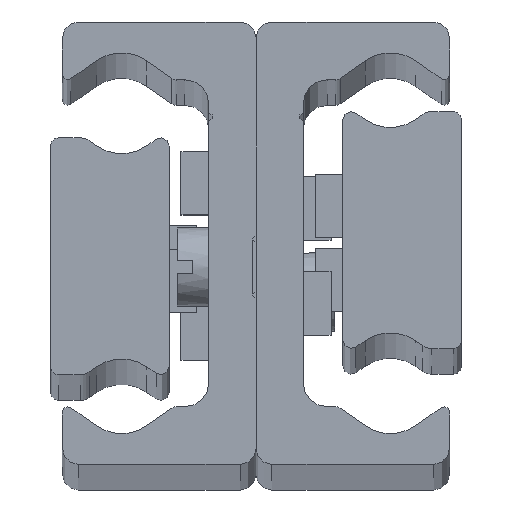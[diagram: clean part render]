
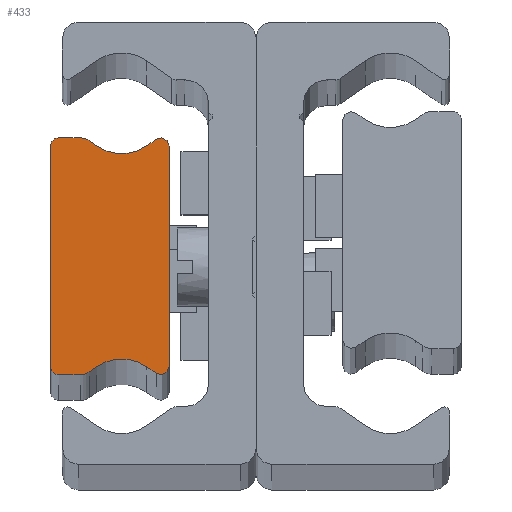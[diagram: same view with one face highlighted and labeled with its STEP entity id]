
A CAD part, top view. The second image highlights one B-rep face of the part: STEP entity #433.
In plain terms, the highlighted planar face has unit normal (0, 0, 1) as drawn and (0, 0, -1) by its records, which use the part's own axes.
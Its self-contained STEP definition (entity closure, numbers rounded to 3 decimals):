
#433 = ADVANCED_FACE( '', ( #983 ), #984, .F. );
#983 = FACE_OUTER_BOUND( '', #1653, .T. );
#984 = PLANE( '', #1654 );
#1653 = EDGE_LOOP( '', ( #2663, #2664, #2665, #2666, #2667, #2668, #2669, #2670, #2671, #2672, #2673, #2674, #2675, #2676, #2677, #2678 ) );
#1654 = AXIS2_PLACEMENT_3D( '', #2679, #2680, #2681 );
#2663 = ORIENTED_EDGE( '', *, *, #3601, .F. );
#2664 = ORIENTED_EDGE( '', *, *, #3746, .F. );
#2665 = ORIENTED_EDGE( '', *, *, #3747, .F. );
#2666 = ORIENTED_EDGE( '', *, *, #3748, .F. );
#2667 = ORIENTED_EDGE( '', *, *, #3749, .F. );
#2668 = ORIENTED_EDGE( '', *, *, #3750, .T. );
#2669 = ORIENTED_EDGE( '', *, *, #3751, .F. );
#2670 = ORIENTED_EDGE( '', *, *, #3752, .F. );
#2671 = ORIENTED_EDGE( '', *, *, #3568, .F. );
#2672 = ORIENTED_EDGE( '', *, *, #3753, .F. );
#2673 = ORIENTED_EDGE( '', *, *, #3754, .F. );
#2674 = ORIENTED_EDGE( '', *, *, #3755, .T. );
#2675 = ORIENTED_EDGE( '', *, *, #3674, .F. );
#2676 = ORIENTED_EDGE( '', *, *, #3756, .F. );
#2677 = ORIENTED_EDGE( '', *, *, #3757, .F. );
#2678 = ORIENTED_EDGE( '', *, *, #3421, .F. );
#2679 = CARTESIAN_POINT( '', ( 0.5, -7., -930. ) );
#2680 = DIRECTION( '', ( 0., 0., 1. ) );
#2681 = DIRECTION( '', ( 1., 0., 0. ) );
#3421 = EDGE_CURVE( '', #3963, #3965, #3966, .T. );
#3568 = EDGE_CURVE( '', #4215, #4217, #4218, .T. );
#3601 = EDGE_CURVE( '', #4276, #3963, #4278, .T. );
#3674 = EDGE_CURVE( '', #4392, #4394, #4395, .T. );
#3746 = EDGE_CURVE( '', #4498, #4276, #4499, .T. );
#3747 = EDGE_CURVE( '', #4500, #4498, #4501, .T. );
#3748 = EDGE_CURVE( '', #4502, #4500, #4503, .T. );
#3749 = EDGE_CURVE( '', #4504, #4502, #4505, .T. );
#3750 = EDGE_CURVE( '', #4504, #4506, #4507, .T. );
#3751 = EDGE_CURVE( '', #4508, #4506, #4509, .T. );
#3752 = EDGE_CURVE( '', #4217, #4508, #4510, .T. );
#3753 = EDGE_CURVE( '', #4511, #4215, #4512, .T. );
#3754 = EDGE_CURVE( '', #4513, #4511, #4514, .T. );
#3755 = EDGE_CURVE( '', #4513, #4394, #4515, .T. );
#3756 = EDGE_CURVE( '', #4516, #4392, #4517, .T. );
#3757 = EDGE_CURVE( '', #3965, #4516, #4518, .T. );
#3963 = VERTEX_POINT( '', #4770 );
#3965 = VERTEX_POINT( '', #4773 );
#3966 = CIRCLE( '', #4774, 0.5 );
#4215 = VERTEX_POINT( '', #5085 );
#4217 = VERTEX_POINT( '', #5088 );
#4218 = LINE( '', #5089, #5090 );
#4276 = VERTEX_POINT( '', #5157 );
#4278 = LINE( '', #5160, #5161 );
#4392 = VERTEX_POINT( '', #5304 );
#4394 = VERTEX_POINT( '', #5307 );
#4395 = LINE( '', #5308, #5309 );
#4498 = VERTEX_POINT( '', #5444 );
#4499 = CIRCLE( '', #5445, 0.5 );
#4500 = VERTEX_POINT( '', #5446 );
#4501 = LINE( '', #5447, #5448 );
#4502 = VERTEX_POINT( '', #5449 );
#4503 = CIRCLE( '', #5450, 1. );
#4504 = VERTEX_POINT( '', #5451 );
#4505 = LINE( '', #5452, #5453 );
#4506 = VERTEX_POINT( '', #5454 );
#4507 = CIRCLE( '', #5455, 2.778 );
#4508 = VERTEX_POINT( '', #5456 );
#4509 = LINE( '', #5457, #5458 );
#4510 = CIRCLE( '', #5459, 0.523 );
#4511 = VERTEX_POINT( '', #5460 );
#4512 = CIRCLE( '', #5461, 0.523 );
#4513 = VERTEX_POINT( '', #5462 );
#4514 = LINE( '', #5463, #5464 );
#4515 = CIRCLE( '', #5465, 2.778 );
#4516 = VERTEX_POINT( '', #5466 );
#4517 = CIRCLE( '', #5467, 1. );
#4518 = LINE( '', #5468, #5469 );
#4770 = CARTESIAN_POINT( '', ( 0., -7., -930. ) );
#4773 = CARTESIAN_POINT( '', ( 0.5, -7.5, -930. ) );
#4774 = AXIS2_PLACEMENT_3D( '', #5770, #5771, #5772 );
#5085 = CARTESIAN_POINT( '', ( 7.5, -6.977, -930. ) );
#5088 = CARTESIAN_POINT( '', ( 7.5, 6.977, -930. ) );
#5089 = CARTESIAN_POINT( '', ( 7.5, -6.977, -930. ) );
#5090 = VECTOR( '', #5989, 1000. );
#5157 = CARTESIAN_POINT( '', ( 0., 7., -930. ) );
#5160 = CARTESIAN_POINT( '', ( 0., 7., -930. ) );
#5161 = VECTOR( '', #6057, 1000. );
#5304 = CARTESIAN_POINT( '', ( 2.446, -7.319, -930. ) );
#5307 = CARTESIAN_POINT( '', ( 2.907, -6.997, -930. ) );
#5308 = CARTESIAN_POINT( '', ( 2.446, -7.319, -930. ) );
#5309 = VECTOR( '', #6151, 1000. );
#5444 = CARTESIAN_POINT( '', ( 0.5, 7.5, -930. ) );
#5445 = AXIS2_PLACEMENT_3D( '', #6232, #6233, #6234 );
#5446 = CARTESIAN_POINT( '', ( 1.873, 7.5, -930. ) );
#5447 = CARTESIAN_POINT( '', ( 1.873, 7.5, -930. ) );
#5448 = VECTOR( '', #6235, 1000. );
#5449 = CARTESIAN_POINT( '', ( 2.446, 7.319, -930. ) );
#5450 = AXIS2_PLACEMENT_3D( '', #6236, #6237, #6238 );
#5451 = CARTESIAN_POINT( '', ( 2.907, 6.997, -930. ) );
#5452 = CARTESIAN_POINT( '', ( 2.907, 6.997, -930. ) );
#5453 = VECTOR( '', #6239, 1000. );
#5454 = CARTESIAN_POINT( '', ( 6.093, 6.997, -930. ) );
#5455 = AXIS2_PLACEMENT_3D( '', #6240, #6241, #6242 );
#5456 = CARTESIAN_POINT( '', ( 6.677, 7.405, -930. ) );
#5457 = CARTESIAN_POINT( '', ( 6.677, 7.405, -930. ) );
#5458 = VECTOR( '', #6243, 1000. );
#5459 = AXIS2_PLACEMENT_3D( '', #6244, #6245, #6246 );
#5460 = CARTESIAN_POINT( '', ( 6.677, -7.405, -930. ) );
#5461 = AXIS2_PLACEMENT_3D( '', #6247, #6248, #6249 );
#5462 = CARTESIAN_POINT( '', ( 6.093, -6.997, -930. ) );
#5463 = CARTESIAN_POINT( '', ( 6.093, -6.997, -930. ) );
#5464 = VECTOR( '', #6250, 1000. );
#5465 = AXIS2_PLACEMENT_3D( '', #6251, #6252, #6253 );
#5466 = CARTESIAN_POINT( '', ( 1.873, -7.5, -930. ) );
#5467 = AXIS2_PLACEMENT_3D( '', #6254, #6255, #6256 );
#5468 = CARTESIAN_POINT( '', ( 0.5, -7.5, -930. ) );
#5469 = VECTOR( '', #6257, 1000. );
#5770 = CARTESIAN_POINT( '', ( 0.5, -7., -930. ) );
#5771 = DIRECTION( '', ( 0., 0., 1. ) );
#5772 = DIRECTION( '', ( 1., 0., 0. ) );
#5989 = DIRECTION( '', ( 0., 1., 0. ) );
#6057 = DIRECTION( '', ( 0., -1., 0. ) );
#6151 = DIRECTION( '', ( 0.819, 0.574, 0. ) );
#6232 = CARTESIAN_POINT( '', ( 0.5, 7., -930. ) );
#6233 = DIRECTION( '', ( 0., 0., 1. ) );
#6234 = DIRECTION( '', ( 1., 0., 0. ) );
#6235 = DIRECTION( '', ( -1., 0., 0. ) );
#6236 = CARTESIAN_POINT( '', ( 1.873, 6.5, -930. ) );
#6237 = DIRECTION( '', ( 0., 0., 1. ) );
#6238 = DIRECTION( '', ( 1., 0., 0. ) );
#6239 = DIRECTION( '', ( -0.819, 0.574, 0. ) );
#6240 = CARTESIAN_POINT( '', ( 4.5, 9.272, -930. ) );
#6241 = DIRECTION( '', ( 0., 0., 1. ) );
#6242 = DIRECTION( '', ( 1., 0., 0. ) );
#6243 = DIRECTION( '', ( -0.819, -0.574, 0. ) );
#6244 = CARTESIAN_POINT( '', ( 6.977, 6.977, -930. ) );
#6245 = DIRECTION( '', ( 0., 0., 1. ) );
#6246 = DIRECTION( '', ( 1., 0., 0. ) );
#6247 = CARTESIAN_POINT( '', ( 6.977, -6.977, -930. ) );
#6248 = DIRECTION( '', ( 0., 0., 1. ) );
#6249 = DIRECTION( '', ( 1., 0., 0. ) );
#6250 = DIRECTION( '', ( 0.819, -0.574, 0. ) );
#6251 = CARTESIAN_POINT( '', ( 4.5, -9.272, -930. ) );
#6252 = DIRECTION( '', ( 0., 0., 1. ) );
#6253 = DIRECTION( '', ( 1., 0., 0. ) );
#6254 = CARTESIAN_POINT( '', ( 1.873, -6.5, -930. ) );
#6255 = DIRECTION( '', ( 0., 0., 1. ) );
#6256 = DIRECTION( '', ( 1., 0., 0. ) );
#6257 = DIRECTION( '', ( 1., 0., 0. ) );
